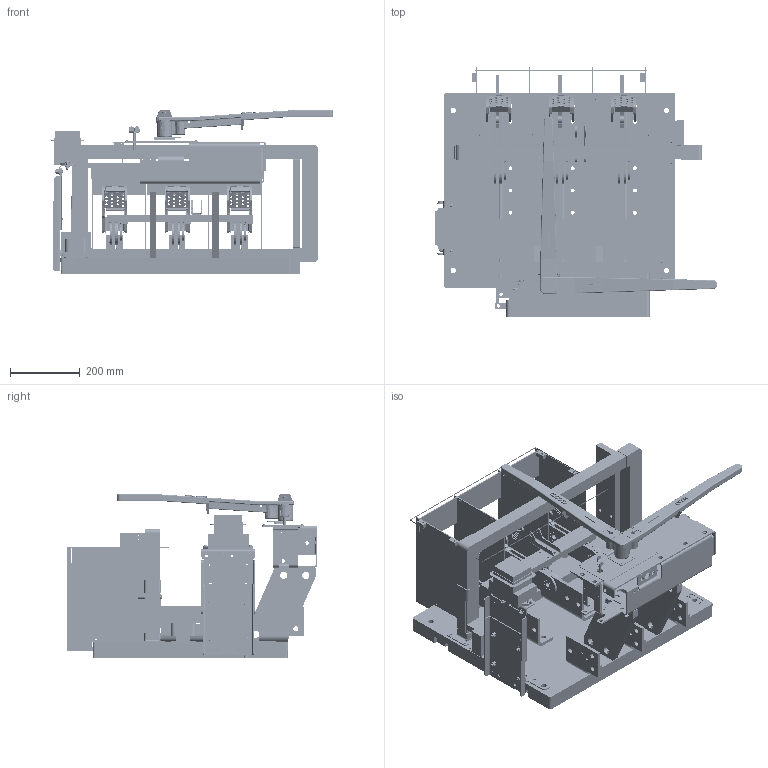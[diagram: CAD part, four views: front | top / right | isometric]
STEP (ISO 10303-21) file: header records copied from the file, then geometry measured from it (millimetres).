
FILE_DESCRIPTION(/* description */ (''),/* implementation_level */ '2;1');
FILE_NAME(/* name */ 'H:\switches\3d-templates\catalog-switches-iges-files\catalog-vl367G5.stp',/* time_stamp */ '2022-03-22T13:53:32-05:00',/* author */ ('MKingston'),/* organization */ (''),/* preprocessor_version */ 'ST-DEVELOPER v18.1',/* originating_system */ 'Autodesk Inventor 2022',/* authorisation */ '');
FILE_SCHEMA (('AUTOMOTIVE_DESIGN { 1 0 10303 214 3 1 1 }'));
Products named in the file (56): catalog-vl367; 277; 666-d; 666-E; 668-c; 223-d-transparent; catalog-blade-assy; 67-AL; 67-AR; 67-gc3; 67-M; 235-b; 230-a; 255-z; catalog-56-qj-arcchute-assy; 363-da; 363-da_MIR; 50-QLX; 50-QRX; 56-QJS; 57-QJSB; 57-QJST; 255-bha; 246-a; 178-c; 255-c; 178-b; gfr-1-mounting-assembly; 277-L1T; 277-l2; 277-l3; 277-l4; gfr-1; Bolted Connection; ANSI B18.6.3 - 10 - 32 x 7/8 SR HMS; ANSI B18.22.1 - No. 10 - Type A; ASME B18.21.1 - No. 10. Carbon Steel, ETLWTB(1); ANSI B18.2.2 - 10 - 32, HMSNI; Bolted Connection_1; ANSI B18.5 - 1/4-20 UNC - 0.75, RHBI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
Assembly tree (108 placements, depth 4):
  catalog-vl367
    277
    666-d  x3
    666-E  x3
    668-c  x3
    223-d-transparent
    catalog-blade-assy  x3
      67-AL
      67-AR
      67-gc3
      67-M
    235-b
    230-a
    255-z
    catalog-56-qj-arcchute-assy  x3
      363-da
      363-da_MIR
      50-QLX
      50-QRX
      56-QJS
      57-QJSB
      57-QJST
    255-bha  x4
    246-a  x2
    178-c  x8
    255-c
    178-b  x4
    gfr-1-mounting-assembly
      277-L1T
      277-l2
      277-l3
      277-l4
      gfr-1
      Bolted Connection
        ANSI B18.22.1 - No. 10 - Type A  x4
        ASME B18.21.1 - No. 10. Carbon Steel, ETLWTB(1)  x4
        ANSI B18.6.3 - 10 - 32 x 7/8 SR HMS  x2
        ANSI B18.2.2 - 10 - 32, HMSNI  x2
      Bolted Connection_1
        ANSI B18.5 - 1/4-20 UNC - 0.75, RHBI  x6
        ASTM F436 - 1/4, CW  x6
        ASME B18.21.1 - 1/4. Carbon Steel, HITLWTB(1)  x6
        ANSI B18.2.2 - 1/4 - 20, HNI  x6
    gfi-ring-assembly
      GFS10X24
      277-ma
    transformer
    675-ba
    675-df
    452
    481-a
    800-bck2
    800-fck-1
    221-kpa
    223-d-transparent-red
    223-FE
Bounding box: 808 x 717.33 x 466.29 mm (x, y, z)
Volume: 19505674.6 mm3; surface area: 4284978.1 mm2
Topology: 133 solids, 134 shells, 5674 faces, 14817 edges, 9677 vertices
Faces by surface type: plane 2926, cylinder 1685, cone 543, bspline 450, torus 62, sphere 8
Full cylindrical faces by diameter (mm): 1.702 x8, 3.302 x2, 3.581 x2, 3.683 x8, 3.759 x12, 3.962 x11, 4.089 x4, 4.305 x42, 4.366 x2, 4.496 x24, 4.653 x4, 4.762 x4, 4.775 x8, 4.801 x8, 4.826 x2, 4.902 x8, 4.915 x24, 4.953 x4, 4.978 x9, 5.462 x4, 5.537 x3, 5.556 x5, 5.563 x4, 5.791 x6, 6.35 x50, 6.528 x41, 7.137 x11, 7.144 x14, 7.938 x19, 8.331 x2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
Entity records: 113869 total; most frequent: CARTESIAN_POINT 29318, ORIENTED_EDGE 17076, DIRECTION 16775, EDGE_CURVE 8546, AXIS2_PLACEMENT_3D 5743, VERTEX_POINT 5556, LINE 5289, VECTOR 5289
